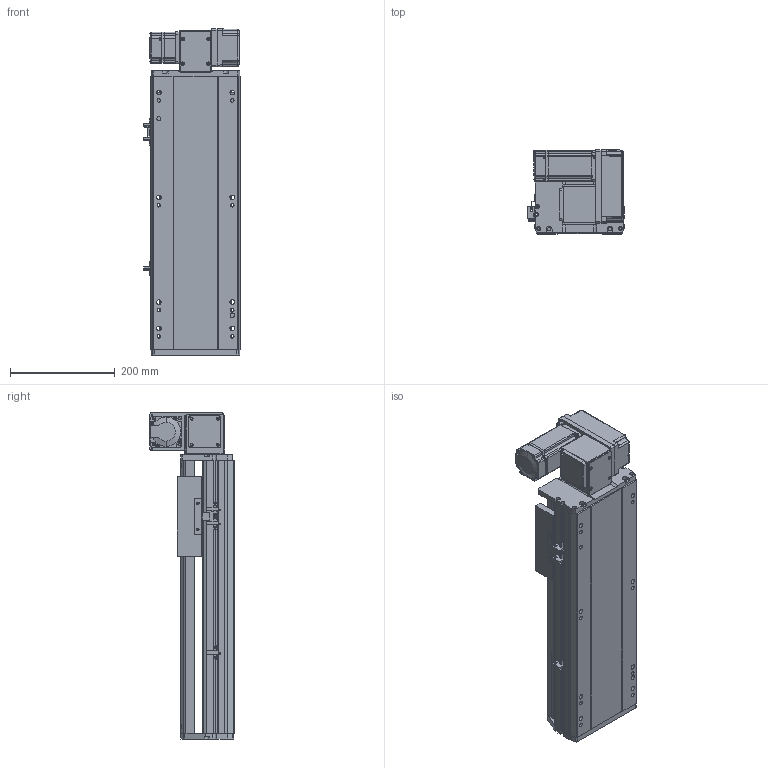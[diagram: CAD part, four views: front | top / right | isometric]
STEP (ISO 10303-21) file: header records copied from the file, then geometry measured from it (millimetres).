
FILE_DESCRIPTION (( 'STEP AP214' ), '1' );
FILE_NAME ('RTB17S-XX-250-RW-M40-C4.STEP', '2025-12-11T08:49:13', ( '' ), ( '' ), 'SwSTEP 2.0', 'SolidWorks 2018', '' );
FILE_SCHEMA (( 'AUTOMOTIVE_DESIGN' ));
Length unit declared in the file: millimetre
Products named in the file (14): RTH13-BL-012覜茼え俋离^RTB17S-XX-XX-RW-M40-C4; RTB17S-L-004佪裝蹟譫蟀諉釱^RTB17S-XX-XX-RW-M40-C4; RTB17S-XX-250-RW-M40-C4; 400W侜督萇儂^RTB17S-XX-XX-RW-M40-C4; RTB17S-RW-々湍釱蚾饜-400W^RTB17S-XX-XX-RW-M40-C4; OMRON EE-SX672 传感器^RTB17S-XX-XX-RW-M40-C4; RTB14-L-017P^RTB17S-RW-々湍釱蚾饜-400W_RTB17S-XX-XX-RW-M40-C4; RTB17-R-011菁釱^RTB17S-XX-XX-RW-M40-C4; RTB14-L-018P^RTB17S-RW-々湍釱蚾饜-400W_RTB17S-XX-XX-RW-M40-C4; RTB14-L-008-M20--萇儂啣^RTB17S-RW-々湍釱蚾饜-400W_RTB17S-XX-XX-RW-M40-C4; RTB14-L-005P--轴承塑胶压盖^RTB17S-RW-皮带座装配-400W_RTB17S-XX-XX-RW-M40-C4; RTB17S-L-001耜醱啣^RTB17S-XX-XX-RW-M40-C4; RMP17S-L-014-T20--々湍釱^RTB17S-RW-々湍釱蚾饜-400W_RTB17S-XX-XX-RW-M40-C4; RTB17S-L-007奻裔^RTB17S-XX-XX-RW-M40-C4
Assembly tree (16 placements, depth 3):
  RTB17S-XX-250-RW-M40-C4
    RTB17-R-011菁釱^RTB17S-XX-XX-RW-M40-C4
    RTB17S-L-007奻裔^RTB17S-XX-XX-RW-M40-C4
    OMRON EE-SX672 传感器^RTB17S-XX-XX-RW-M40-C4  x3
    RTB17S-L-001耜醱啣^RTB17S-XX-XX-RW-M40-C4
    400W侜督萇儂^RTB17S-XX-XX-RW-M40-C4
    RTB17S-L-004佪裝蹟譫蟀諉釱^RTB17S-XX-XX-RW-M40-C4
    RTH13-BL-012覜茼え俋离^RTB17S-XX-XX-RW-M40-C4
    RTB17S-RW-々湍釱蚾饜-400W^RTB17S-XX-XX-RW-M40-C4
      RMP17S-L-014-T20--々湍釱^RTB17S-RW-々湍釱蚾饜-400W_RTB17S-XX-XX-RW-M40-C4
      RTB14-L-005P--轴承塑胶压盖^RTB17S-RW-皮带座装配-400W_RTB17S-XX-XX-RW-M40-C4
      RTB14-L-008-M20--萇儂啣^RTB17S-RW-々湍釱蚾饜-400W_RTB17S-XX-XX-RW-M40-C4
      RTB14-L-017P^RTB17S-RW-々湍釱蚾饜-400W_RTB17S-XX-XX-RW-M40-C4  x2
      RTB14-L-018P^RTB17S-RW-々湍釱蚾饜-400W_RTB17S-XX-XX-RW-M40-C4
Bounding box: 183.5 x 160.5 x 622.5 mm (x, y, z)
Volume: 6252946.2 mm3; surface area: 832894.9 mm2
Topology: 15 solids, 15 shells, 2157 faces, 5925 edges, 3861 vertices
Faces by surface type: plane 1062, cylinder 647, bspline 301, cone 139, torus 8
Entity records: 60329 total; most frequent: CARTESIAN_POINT 16730, ORIENTED_EDGE 8694, DIRECTION 8126, EDGE_CURVE 4347, VERTEX_POINT 2849, AXIS2_PLACEMENT_3D 2779, LINE 2568, VECTOR 2568
